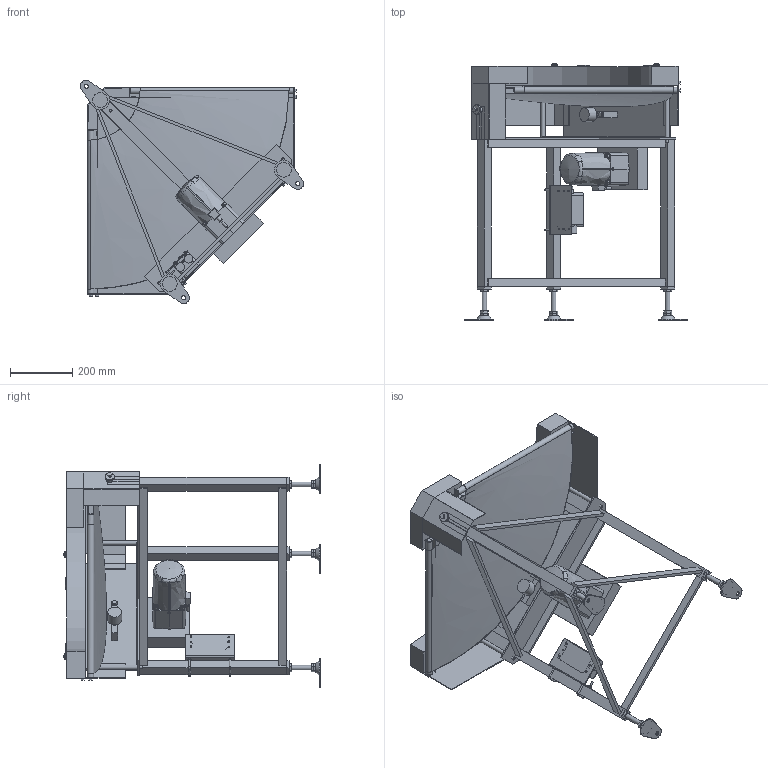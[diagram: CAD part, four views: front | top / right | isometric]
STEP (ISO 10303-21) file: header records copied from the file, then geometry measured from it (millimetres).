
FILE_DESCRIPTION( (''), '2;1');
FILE_NAME ('WEB-FFBC3-UD-309-400-90°-R-K-60.stp','2025-10-17T10:01:22',(''),(''),'spGate 20.6.2 (****-****-****-****)','','');
FILE_SCHEMA (('AUTOMOTIVE_DESIGN'));
Length unit declared in the file: millimetre
Products named in the file (64): WEB-FFBC3-UD-309-400-90_-R-K-60; TEMP_X_T-prt0; TEMP_X_T-prt1; TEMP_X_T-prt2; TEMP_X_T-prt3; TEMP_X_T-prt4; TEMP_X_T-prt5; TEMP_X_T-prt6; TEMP_X_T-prt7; TEMP_X_T-prt8; TEMP_X_T-prt9; TEMP_X_T-prt10; TEMP_X_T-prt11; TEMP_X_T-prt12; TEMP_X_T-prt13; TEMP_X_T-prt14; TEMP_X_T-prt15; TEMP_X_T-prt16; TEMP_X_T-prt17; TEMP_X_T-prt18; TEMP_X_T-prt19; TEMP_X_T-prt20; TEMP_X_T-prt21; TEMP_X_T-prt22; TEMP_X_T-prt23; TEMP_X_T-prt24; TEMP_X_T-prt25; TEMP_X_T-prt26; TEMP_X_T-prt27; TEMP_X_T-prt28; TEMP_X_T-prt29; TEMP_X_T-prt30; TEMP_X_T-prt31; TEMP_X_T-prt32; TEMP_X_T-prt33; TEMP_X_T-prt34; TEMP_X_T-prt35; TEMP_X_T-prt36; TEMP_X_T-prt37; TEMP_X_T-prt38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
Assembly tree (63 placements, depth 2):
  WEB-FFBC3-UD-309-400-90_-R-K-60
    TEMP_X_T-prt0
    TEMP_X_T-prt1
    TEMP_X_T-prt2
    TEMP_X_T-prt3
    TEMP_X_T-prt4
    TEMP_X_T-prt5
    TEMP_X_T-prt6
    TEMP_X_T-prt7
    TEMP_X_T-prt8
    TEMP_X_T-prt9
    TEMP_X_T-prt10
    TEMP_X_T-prt11
    TEMP_X_T-prt12
    TEMP_X_T-prt13
    TEMP_X_T-prt14
    TEMP_X_T-prt15
    TEMP_X_T-prt16
    TEMP_X_T-prt17
    TEMP_X_T-prt18
    TEMP_X_T-prt19
    TEMP_X_T-prt20
    TEMP_X_T-prt21
    TEMP_X_T-prt22
    TEMP_X_T-prt23
    TEMP_X_T-prt24
    TEMP_X_T-prt25
    TEMP_X_T-prt26
    TEMP_X_T-prt27
    TEMP_X_T-prt28
    TEMP_X_T-prt29
    TEMP_X_T-prt30
    TEMP_X_T-prt31
    TEMP_X_T-prt32
    TEMP_X_T-prt33
    TEMP_X_T-prt34
    TEMP_X_T-prt35
    TEMP_X_T-prt36
    TEMP_X_T-prt37
    TEMP_X_T-prt38
    TEMP_X_T-prt39
    TEMP_X_T-prt40
    TEMP_X_T-prt41
    TEMP_X_T-prt42
    TEMP_X_T-prt43
    TEMP_X_T-prt44
    TEMP_X_T-prt45
    TEMP_X_T-prt46
    TEMP_X_T-prt47
    TEMP_X_T-prt48
    TEMP_X_T-prt49
    TEMP_X_T-prt50
    TEMP_X_T-prt51
    TEMP_X_T-prt52
    TEMP_X_T-prt53
    TEMP_X_T-prt54
    TEMP_X_T-prt55
    TEMP_X_T-prt56
    TEMP_X_T-prt57
    TEMP_X_T-prt58
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Bounding box: 719.17 x 827.92 x 719.17 mm (x, y, z)
Volume: 18124132.9 mm3; surface area: 3917195.1 mm2
Topology: 63 solids, 63 shells, 1047 faces, 2569 edges, 1734 vertices
Faces by surface type: plane 740, cylinder 195, bspline 109, sphere 3
Full cylindrical faces by diameter (mm): 4.2 x2, 5 x16, 5.3 x2, 6 x10, 6.9 x4, 7 x5, 7.8 x1, 8 x11, 8.4 x4, 8.5 x4, 9 x2, 10 x2, 12.5 x8, 13 x11, 13.8 x3, 15 x4, 16 x9, 17 x9, 18 x4, 19 x2, 20 x3, 25 x1, 27.8 x3, 30 x1, 42 x1, 45 x1, 94 x1
Entity records: 60890 total; most frequent: CARTESIAN_POINT 13711, ORIENTED_EDGE 5120, DIRECTION 5056, COLOUR_RGB 3670, PRESENTATION_STYLE_ASSIGNMENT 3670, STYLED_ITEM 3670, EDGE_CURVE 2560, DRAUGHTING_PRE_DEFINED_CURVE_FONT 2560
